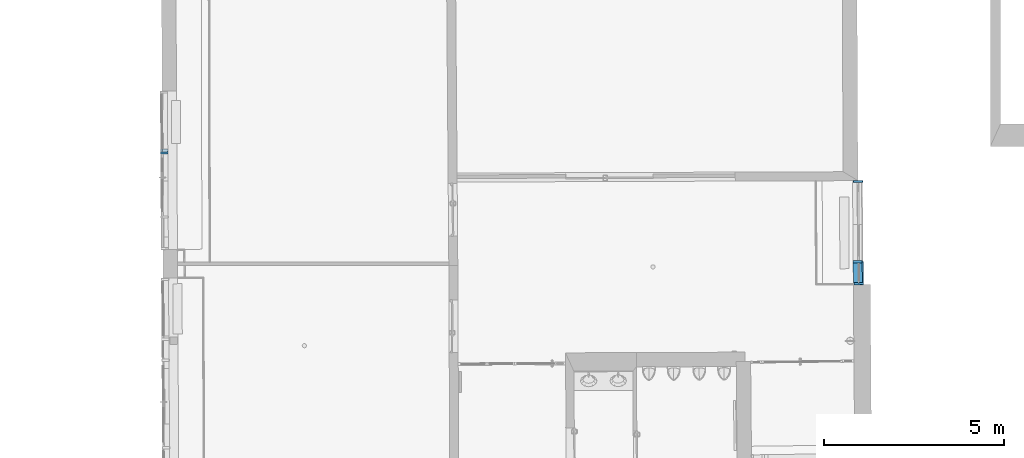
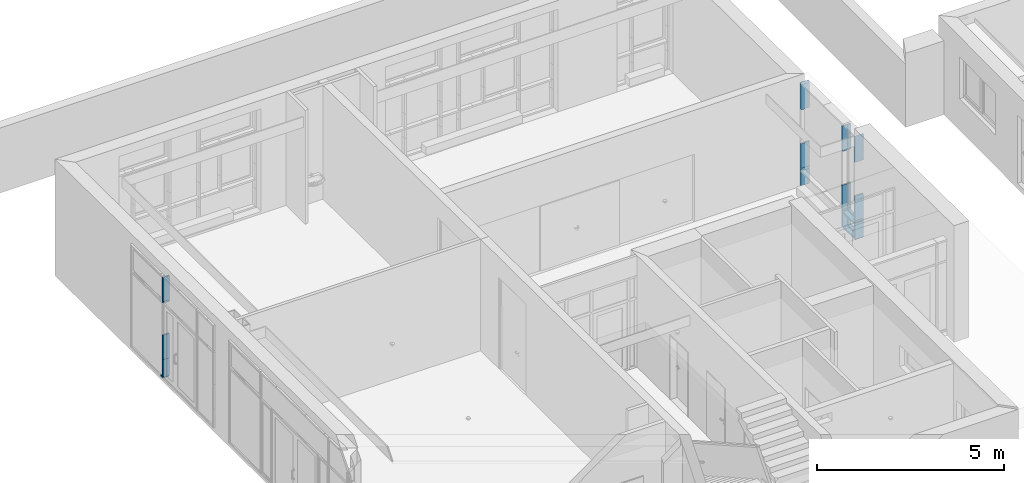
# One storey, part 159 of 196: 19 building element parts, 2 elements without a shape of their own.
"""IFC2X3 building model written with IfcOpenShell, lengths in metres."""

import ifcopenshell
import ifcopenshell.guid

model = None  # the IFC model being written
_history = None  # IfcOwnerHistory: only IFC2X3 demands one
_inside = {}  # id of a spatial element -> (the spatial element, [elements in it])
_under = {}  # id of a project, library or spatial element -> (it, [spatial elements below it])
_declared = {}  # id of a project -> (the project, [libraries it declares])
_typed = {}  # id of a type object -> (the type object, [elements of that type])
_made_of = {}  # id of a material, layer set ... -> (it, [elements and type objects made of it])


def new_model(schema):
    """Start an empty IFC model of exactly this schema.

    Asked for "IFC4X3", IfcOpenShell would pick the latest addendum, in which some entities
    have other attributes; the version numbers below select the first issue.
    IFC2X3 requires an IfcOwnerHistory on every rooted entity: one is made here for all.
    """
    global model, _history
    if schema == "IFC4X3":
        model = ifcopenshell.file(schema_version=(4, 3, 0, 0))
    else:
        model = ifcopenshell.file(schema=schema)
    _inside.clear()
    _under.clear()
    _declared.clear()
    _typed.clear()
    _made_of.clear()
    _history = None
    if model.schema == "IFC2X3":
        org = make("IfcOrganization", Name="unknown")
        user = make(
            "IfcPersonAndOrganization",
            ThePerson=make("IfcPerson", FamilyName="unknown"),
            TheOrganization=org,
        )
        app = make(
            "IfcApplication",
            ApplicationDeveloper=org,
            Version="unknown",
            ApplicationFullName="unknown",
            ApplicationIdentifier="unknown",
        )
        _history = make(
            "IfcOwnerHistory",
            OwningUser=user,
            OwningApplication=app,
            ChangeAction="ADDED",
            CreationDate=0,
        )
    return model


def make(cls, **values):
    """One entity of the class cls with the attributes given. An attribute that is None is left unset."""
    return model.create_entity(
        cls, **{name: value for name, value in values.items() if value is not None}
    )


def entity(cls, *values):
    """Any entity or typed value of the class cls, its attributes in the order of the schema. None: left unset."""
    e = model.create_entity(cls)
    for i, value in enumerate(values):
        if value is not None:
            e[i] = value
    return e


def rooted(cls, **values):
    """An entity with a GlobalId (a new one), such as an element, a storey or a relation."""
    return make(cls, GlobalId=ifcopenshell.guid.new(), OwnerHistory=_history, **values)


def si_unit(unit_type, name, prefix=None):
    """IfcSIUnit, for example si_unit("LENGTHUNIT", "METRE", prefix="MILLI")."""
    return make("IfcSIUnit", UnitType=unit_type, Prefix=prefix, Name=name)


def converted_unit(unit_type, name, factor, base, dimensions=None, offset=None):
    """IfcConversionBasedUnit, such as the inch: factor (a typed value) times the base unit."""
    return make(
        "IfcConversionBasedUnit"
        if offset is None
        else "IfcConversionBasedUnitWithOffset",
        ConversionOffset=offset,
        Dimensions=None
        if dimensions is None
        else entity("IfcDimensionalExponents", *dimensions),
        UnitType=unit_type,
        Name=name,
        ConversionFactor=make(
            "IfcMeasureWithUnit", ValueComponent=factor, UnitComponent=base
        ),
    )


def derived_unit(unit_type, elements):
    """IfcDerivedUnit: a product of units, each with its exponent."""
    return make(
        "IfcDerivedUnit",
        Elements=[
            make("IfcDerivedUnitElement", Unit=unit, Exponent=power)
            for unit, power in elements
        ],
        UnitType=unit_type,
    )


def money_unit(currency):
    """IfcMonetaryUnit."""
    return make("IfcMonetaryUnit", Currency=currency)


def assignment(units):
    """IfcUnitAssignment: the units of a project."""
    return None if units is None else make("IfcUnitAssignment", Units=units)


def point(xyz):
    """IfcCartesianPoint."""
    return None if xyz is None else make("IfcCartesianPoint", Coordinates=xyz)


def direction(xyz):
    """IfcDirection."""
    return None if xyz is None else make("IfcDirection", DirectionRatios=xyz)


def frame(location, z_axis=None, x_axis=None):
    """IfcAxis2Placement3D, a coordinate frame: its origin and axes. An axis left out is left unset."""
    return make(
        "IfcAxis2Placement3D",
        Location=point(location),
        Axis=direction(z_axis),
        RefDirection=direction(x_axis),
    )


def origin_with_axes():
    """The frame at (0, 0, 0) with the z axis (0, 0, 1) and the x axis (1, 0, 0) written out."""
    return frame((0.0, 0.0, 0.0), z_axis=(0.0, 0.0, 1.0), x_axis=(1.0, 0.0, 0.0))


def place(relative_to, where):
    """IfcLocalPlacement: puts the frame where relative to a parent placement (None: the world)."""
    return make(
        "IfcLocalPlacement", PlacementRelTo=relative_to, RelativePlacement=where
    )


def context(
    kind, dimensions, precision=None, world=None, true_north=None, identifier=None
):
    """IfcGeometricRepresentationContext, for example the 3D "Model" context."""
    return make(
        "IfcGeometricRepresentationContext",
        ContextIdentifier=identifier,
        ContextType=kind,
        CoordinateSpaceDimension=dimensions,
        Precision=precision,
        WorldCoordinateSystem=world,
        TrueNorth=true_north,
    )


def subcontext(parent, identifier, kind, view, scale=None):
    """IfcGeometricRepresentationSubContext, for example "Body" below "Model"."""
    return make(
        "IfcGeometricRepresentationSubContext",
        ContextIdentifier=identifier,
        ContextType=kind,
        ParentContext=parent,
        TargetScale=scale,
        TargetView=view,
    )


def project(units=None, contexts=None):
    """IfcProject with its units and contexts."""
    return rooted(
        "IfcProject",
        Name="project",
        RepresentationContexts=contexts,
        UnitsInContext=assignment(units),
    )


def spatial(cls, under=None, at=None, **own):
    """A site, building, storey or space (cls), placed at a placement, below another one or the project."""
    s = rooted(cls, ObjectPlacement=at, **own)
    if under is not None:
        _under.setdefault(under.id(), (under, []))[1].append(s)
    return s


def faces_of(points, faces, orient=None, outer=None):
    """IfcFace entities. A face is a list of loops; a loop is a list of indices into points, from 0.

    orient and outer hold one flag for each loop. By default every Orientation is true, the
    first loop of a face is its IfcFaceOuterBound and the others are IfcFaceBound.
    """
    made = []
    for i, loops in enumerate(faces):
        bounds = []
        for j, loop in enumerate(loops):
            is_outer = j == 0 if outer is None else outer[i][j]
            bounds.append(
                make(
                    "IfcFaceOuterBound" if is_outer else "IfcFaceBound",
                    Bound=make("IfcPolyLoop", Polygon=[points[k] for k in loop]),
                    Orientation=True if orient is None else orient[i][j],
                )
            )
        made.append(make("IfcFace", Bounds=bounds))
    return made


def faceted_brep(points, faces, orient=None, outer=None, voids=None):
    """IfcFacetedBrep: a solid bounded by flat faces; with voids (closed shells), ...WithVoids."""
    shared = [point(p) for p in points]
    hull = make("IfcClosedShell", CfsFaces=faces_of(shared, faces, orient, outer))
    if voids is None:
        return make("IfcFacetedBrep", Outer=hull)
    return make(
        "IfcFacetedBrepWithVoids",
        Outer=hull,
        Voids=[
            make(cls, CfsFaces=faces_of(shared, fs, o, b)) for cls, fs, o, b in voids
        ],
    )


def shape(context_of_items, identifier, shape_type, items):
    """IfcShapeRepresentation: the items that make up one representation, for example the "Body"."""
    return make(
        "IfcShapeRepresentation",
        ContextOfItems=context_of_items,
        RepresentationIdentifier=identifier,
        RepresentationType=shape_type,
        Items=items,
    )


def material(Name=None, Category=None):
    """IfcMaterial."""
    return make("IfcMaterial", Name=Name, Category=Category)


def made_of(thing, what):
    """Note that an element or type object is made of a material, layer set ...; save() writes the relation."""
    if what is not None:
        _made_of.setdefault(what.id(), (what, []))[1].append(thing)
    return thing


def type_object(cls, material=None, **own):
    """A type object (cls), such as IfcWallType, which elements share."""
    return made_of(rooted(cls, **own), material)


def element(
    cls,
    number,
    at=None,
    inside=None,
    cuts=None,
    type_object=None,
    material=None,
    context=None,
    identifier="Body",
    shape_type=None,
    held_by="IfcProductDefinitionShape",
    body=None,
    shapes=None,
    **own,
):
    """One element of the class cls, such as IfcWall. Its Tag is "e" and its number.

    at: its placement. inside: the storey or other place that contains it. cuts: it is an
    opening in that element (IfcRelVoidsElement). A single representation is given by context,
    identifier, shape_type and body (its items); several are given by shapes. held_by: the class
    of the entity that holds the representations. save() writes the other relations.
    """
    e = rooted(cls, Tag="e%d" % number, ObjectPlacement=at, **own)
    if body is not None:
        shapes = [shape(context, identifier, shape_type, body)]
    if shapes is not None:
        e.Representation = make(held_by, Representations=shapes)
    if inside is not None:
        _inside.setdefault(inside.id(), (inside, []))[1].append(e)
    if cuts is not None:
        rooted(
            "IfcRelVoidsElement", RelatingBuildingElement=cuts, RelatedOpeningElement=e
        )
    if type_object is not None:
        _typed.setdefault(type_object.id(), (type_object, []))[1].append(e)
    return made_of(e, material)


def aggregate(whole, parts):
    """IfcRelAggregates: a whole, such as a stair, and the parts it consists of."""
    return rooted("IfcRelAggregates", RelatingObject=whole, RelatedObjects=parts)


def save(model, path):
    """Write the relations noted so far, then the file.

    IfcRelAggregates (storeys below a building ...), IfcRelContainedInSpatialStructure (elements
    in a storey), IfcRelDefinesByType, IfcRelAssociatesMaterial and IfcRelDeclares: one each for
    every whole, place, type object, material and project.
    """
    for whole, parts in _under.values():
        aggregate(whole, parts)
    for where, things in _inside.values():
        rooted(
            "IfcRelContainedInSpatialStructure",
            RelatedElements=things,
            RelatingStructure=where,
        )
    for kind, things in _typed.values():
        rooted("IfcRelDefinesByType", RelatedObjects=things, RelatingType=kind)
    for what, things in _made_of.values():
        rooted("IfcRelAssociatesMaterial", RelatedObjects=things, RelatingMaterial=what)
    for by, libraries in _declared.values():
        rooted("IfcRelDeclares", RelatingContext=by, RelatedDefinitions=libraries)
    model.write(path)


model = new_model("IFC2X3")

# Units and contexts
model_context = context("Model", 3, precision=1e-05, world=origin_with_axes(), true_north=direction((0.0, 1.0)))
body_context = subcontext(model_context, "Body", "Model", "MODEL_VIEW")
ifc_project = project(units=[si_unit("LENGTHUNIT", "METRE"), si_unit("AREAUNIT", "SQUARE_METRE"), si_unit("VOLUMEUNIT", "CUBIC_METRE"), converted_unit("PLANEANGLEUNIT", "DEGREE", entity("IfcPlaneAngleMeasure", 0.0174532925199), si_unit("PLANEANGLEUNIT", "RADIAN"), dimensions=[0, 0, 0, 0, 0, 0, 0]), money_unit("EUR"), converted_unit("TIMEUNIT", "Year", entity("IfcTimeMeasure", 31556926.0), si_unit("TIMEUNIT", "SECOND"), dimensions=[0, 0, 1, 0, 0, 0, 0]), si_unit("MASSUNIT", "GRAM", prefix="KILO"), si_unit("THERMODYNAMICTEMPERATUREUNIT", "DEGREE_CELSIUS"), si_unit("LUMINOUSINTENSITYUNIT", "LUMEN"), si_unit("ENERGYUNIT", "JOULE", prefix="MEGA"), derived_unit("THERMALCONDUCTANCEUNIT", [(si_unit("POWERUNIT", "WATT"), 1), (si_unit("LENGTHUNIT", "METRE"), -1), (si_unit("THERMODYNAMICTEMPERATUREUNIT", "KELVIN"), -1)]), derived_unit("SPECIFICHEATCAPACITYUNIT", [(si_unit("ENERGYUNIT", "JOULE"), 1), (si_unit("MASSUNIT", "GRAM", prefix="KILO"), -1), (si_unit("THERMODYNAMICTEMPERATUREUNIT", "KELVIN"), -1)]), derived_unit("MASSDENSITYUNIT", [(si_unit("MASSUNIT", "GRAM", prefix="KILO"), 1), (si_unit("VOLUMEUNIT", "CUBIC_METRE"), -1)])], contexts=[model_context])

# Site, building, storey
site_placement = place(None, origin_with_axes())
site = spatial("IfcSite", under=ifc_project, at=site_placement, Name="Gelände", CompositionType="ELEMENT")
building_placement = place(site_placement, origin_with_axes())
building = spatial("IfcBuilding", under=site, at=building_placement, Name="Gebäude", CompositionType="ELEMENT")
storey_placement = place(building_placement, frame((0.0, 0.0, -3.0), z_axis=(0.0, 0.0, 1.0), x_axis=(1.0, 0.0, 0.0)))
storey = spatial("IfcBuildingStorey", under=building, at=storey_placement, Name="KELLERGESCHOSS", CompositionType="ELEMENT", Elevation=-3.0)

# Proxy, building element parts
building_element_proxy_type = type_object("IfcBuildingElementProxyType", Name="Fassadentyp", PredefinedType="NOTDEFINED")
proxy_1_placement = place(storey_placement, frame((-34.913387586, 47.2552574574, 0.421025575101), z_axis=(0.0, 0.0, 1.0), x_axis=(1.0, 0.0, 0.0)))
proxy_1 = element("IfcBuildingElementProxy", 1, at=proxy_1_placement, inside=storey, type_object=building_element_proxy_type, Name="Fassade-002")
ifc_material = material(Name="53_Metall, Aluminium")
building_element_part_1_placement = place(proxy_1_placement, origin_with_axes())
building_element_part_1 = element("IfcBuildingElementPart", 2, at=building_element_part_1_placement, material=ifc_material, Name="53_Metall, Aluminium", context=body_context, shape_type="Brep", body=[
    faceted_brep([(0.00490654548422, 0.868505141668, 0.0349999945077), (-0.0150931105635, 0.868387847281, 0.0349999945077), (-0.0150931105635, 0.868387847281, 0.0499999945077), (-0.0550924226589, 0.868153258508, 0.0499999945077), (-0.0550924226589, 0.868153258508, -5.49228174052e-09), (0.144904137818, 0.869326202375, -5.49228174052e-09), (0.144904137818, 0.869326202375, 0.0499999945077), (0.00490654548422, 0.868505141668, 0.0499999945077), (0.00424004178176, 0.982149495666, 0.0349999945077), (-0.015759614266, 0.982032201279, 0.0349999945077), (-0.015759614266, 0.982032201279, 0.0499999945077), (-0.0557589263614, 0.981797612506, 0.0499999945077), (-0.0557589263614, 0.981797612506, -5.49228174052e-09), (0.144237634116, 0.982970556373, -5.49228174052e-09), (0.144237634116, 0.982970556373, 0.0499999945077), (0.00424004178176, 0.982149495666, 0.0499999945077)], [[[0, 1, 2, 3, 4, 5, 6, 7]], [[1, 0, 8, 9]], [[10, 2, 1, 9]], [[2, 10, 11, 3]], [[12, 4, 3, 11]], [[13, 5, 4, 12]], [[14, 6, 5, 13]], [[15, 7, 6, 14]], [[0, 7, 15, 8]], [[8, 15, 14, 13, 12, 11, 10, 9]]]),
])
building_element_part_2_placement = place(proxy_1_placement, origin_with_axes())
building_element_part_2 = element("IfcBuildingElementPart", 3, at=building_element_part_2_placement, material=ifc_material, Name="53_Metall, Aluminium", context=body_context, shape_type="Brep", body=[
    faceted_brep([(0.0049651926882, 0.858505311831, 1.42000003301), (0.00505316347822, 0.843505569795, 1.42000003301), (0.145050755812, 0.844326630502, 1.42000003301), (0.144757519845, 0.894325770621, 1.42000003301), (0.00475992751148, 0.893504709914, 1.42000003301), (0.0048478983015, 0.878504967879, 1.42000003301), (-0.0151517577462, 0.878387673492, 1.42000003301), (-0.0152397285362, 0.893387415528, 1.42000003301), (-0.0552390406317, 0.893152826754, 1.42000003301), (-0.0549458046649, 0.843153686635, 1.42000003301), (-0.0149464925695, 0.843388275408, 1.42000003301), (-0.0150344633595, 0.858388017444, 1.42000003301), (0.0049651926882, 0.858505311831, 0.620000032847), (0.00505316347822, 0.843505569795, 0.620000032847), (0.145050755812, 0.844326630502, 0.620000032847), (0.144757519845, 0.894325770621, 0.620000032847), (0.00475992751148, 0.893504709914, 0.620000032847), (0.0048478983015, 0.878504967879, 0.620000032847), (-0.0151517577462, 0.878387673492, 0.620000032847), (-0.0152397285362, 0.893387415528, 0.620000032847), (-0.0552390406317, 0.893152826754, 0.620000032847), (-0.0549458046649, 0.843153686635, 0.620000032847), (-0.0149464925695, 0.843388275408, 0.620000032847), (-0.0150344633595, 0.858388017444, 0.620000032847)], [[[0, 1, 2, 3, 4, 5, 6, 7, 8, 9, 10, 11]], [[1, 0, 12, 13]], [[1, 13, 14, 2]], [[3, 2, 14, 15]], [[4, 3, 15, 16]], [[4, 16, 17, 5]], [[5, 17, 18, 6]], [[7, 6, 18, 19]], [[19, 20, 8, 7]], [[9, 8, 20, 21]], [[22, 10, 9, 21]], [[11, 10, 22, 23]], [[0, 11, 23, 12]], [[23, 22, 21, 20, 19, 18, 17, 16, 15, 14, 13, 12]]]),
])
building_element_part_3_placement = place(proxy_1_placement, origin_with_axes())
building_element_part_3 = element("IfcBuildingElementPart", 4, at=building_element_part_3_placement, material=ifc_material, Name="53_Metall, Aluminium", context=body_context, shape_type="Brep", body=[
    faceted_brep([(0.00496519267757, 0.858505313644, 0.620000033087), (0.00505316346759, 0.843505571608, 0.620000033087), (0.145050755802, 0.844326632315, 0.620000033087), (0.144757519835, 0.894325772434, 0.620000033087), (0.00475992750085, 0.893504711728, 0.620000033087), (0.00484789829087, 0.878504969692, 0.620000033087), (-0.0151517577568, 0.878387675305, 0.620000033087), (-0.0152397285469, 0.893387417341, 0.620000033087), (-0.0552390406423, 0.893152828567, 0.620000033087), (-0.0549458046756, 0.843153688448, 0.620000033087), (-0.0149464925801, 0.843388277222, 0.620000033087), (-0.0150344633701, 0.858388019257, 0.620000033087), (0.00496519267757, 0.858505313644, 0.049999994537), (0.00505316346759, 0.843505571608, 0.049999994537), (0.145050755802, 0.844326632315, 0.0499999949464), (0.144757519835, 0.894325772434, 0.0499999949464), (0.00475992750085, 0.893504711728, 0.049999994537), (0.00484789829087, 0.878504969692, 0.049999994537), (-0.0151517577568, 0.878387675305, 0.0499999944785), (-0.0152397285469, 0.893387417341, 0.0499999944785), (-0.0552390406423, 0.893152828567, 0.0499999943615), (-0.0549458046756, 0.843153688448, 0.0499999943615), (-0.0149464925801, 0.843388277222, 0.0499999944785), (-0.0150344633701, 0.858388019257, 0.0499999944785)], [[[0, 1, 2, 3, 4, 5, 6, 7, 8, 9, 10, 11]], [[1, 0, 12, 13]], [[1, 13, 14, 2]], [[2, 14, 15, 3]], [[4, 3, 15, 16]], [[4, 16, 17, 5]], [[5, 17, 18, 6]], [[7, 6, 18, 19]], [[19, 20, 8, 7]], [[8, 20, 21, 9]], [[22, 10, 9, 21]], [[11, 10, 22, 23]], [[0, 11, 23, 12]], [[23, 22, 21, 20, 19, 18, 17, 16, 15, 14, 13, 12]]]),
])
building_element_part_4_placement = place(proxy_1_placement, origin_with_axes())
building_element_part_4 = element("IfcBuildingElementPart", 5, at=building_element_part_4_placement, material=ifc_material, Name="53_Metall, Aluminium", context=body_context, shape_type="Brep", body=[
    faceted_brep([(0.00496519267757, 0.858505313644, 3.29999994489), (0.00505316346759, 0.843505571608, 3.29999994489), (0.145050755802, 0.844326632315, 3.29999994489), (0.144757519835, 0.894325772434, 3.29999994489), (0.00475992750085, 0.893504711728, 3.29999994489), (0.00484789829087, 0.878504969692, 3.29999994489), (-0.0151517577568, 0.878387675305, 3.29999994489), (-0.0152397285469, 0.893387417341, 3.29999994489), (-0.0552390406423, 0.893152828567, 3.29999994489), (-0.0549458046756, 0.843153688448, 3.29999994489), (-0.0149464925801, 0.843388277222, 3.29999994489), (-0.0150344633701, 0.858388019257, 3.29999994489), (0.00496519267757, 0.858505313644, 2.52000003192), (0.00505316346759, 0.843505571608, 2.52000003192), (0.145050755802, 0.844326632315, 2.52000003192), (0.144757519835, 0.894325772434, 2.52000003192), (0.00475992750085, 0.893504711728, 2.52000003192), (0.00484789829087, 0.878504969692, 2.52000003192), (-0.0151517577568, 0.878387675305, 2.52000003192), (-0.0152397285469, 0.893387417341, 2.52000003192), (-0.0552390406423, 0.893152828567, 2.52000003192), (-0.0549458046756, 0.843153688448, 2.52000003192), (-0.0149464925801, 0.843388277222, 2.52000003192), (-0.0150344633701, 0.858388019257, 2.52000003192)], [[[0, 1, 2, 3, 4, 5, 6, 7, 8, 9, 10, 11]], [[1, 0, 12, 13]], [[1, 13, 14, 2]], [[3, 2, 14, 15]], [[4, 3, 15, 16]], [[4, 16, 17, 5]], [[5, 17, 18, 6]], [[7, 6, 18, 19]], [[19, 20, 8, 7]], [[9, 8, 20, 21]], [[22, 10, 9, 21]], [[11, 10, 22, 23]], [[0, 11, 23, 12]], [[23, 22, 21, 20, 19, 18, 17, 16, 15, 14, 13, 12]]]),
])
building_element_part_5_placement = place(proxy_1_placement, origin_with_axes())
building_element_part_5 = element("IfcBuildingElementPart", 6, at=building_element_part_5_placement, material=ifc_material, Name="53_Metall, Aluminium", context=body_context, shape_type="Brep", body=[
    faceted_brep([(0.00496519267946, 0.858505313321, 2.52000003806), (0.00505316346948, 0.843505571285, 2.52000003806), (0.145050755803, 0.844326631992, 2.52000003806), (0.144757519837, 0.894325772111, 2.52000003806), (0.00475992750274, 0.893504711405, 2.52000003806), (0.00484789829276, 0.878504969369, 2.52000003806), (-0.015151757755, 0.878387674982, 2.52000003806), (-0.015239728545, 0.893387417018, 2.52000003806), (-0.0552390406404, 0.893152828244, 2.52000003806), (-0.0549458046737, 0.843153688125, 2.52000003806), (-0.0149464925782, 0.843388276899, 2.52000003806), (-0.0150344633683, 0.858388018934, 2.52000003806), (0.00496519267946, 0.858505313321, 2.45764337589), (0.00505316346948, 0.843505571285, 2.45764337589), (0.145050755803, 0.844326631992, 2.45764337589), (0.144757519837, 0.894325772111, 2.45764337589), (0.00475992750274, 0.893504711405, 2.45764337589), (0.00484789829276, 0.878504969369, 2.45764337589), (-0.015151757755, 0.878387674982, 2.45764337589), (-0.015239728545, 0.893387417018, 2.45764337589), (-0.0552390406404, 0.893152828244, 2.45764337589), (-0.0549458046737, 0.843153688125, 2.45764337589), (-0.0149464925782, 0.843388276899, 2.45764337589), (-0.0150344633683, 0.858388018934, 2.45764337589)], [[[0, 1, 2, 3, 4, 5, 6, 7, 8, 9, 10, 11]], [[1, 0, 12, 13]], [[1, 13, 14, 2]], [[3, 2, 14, 15]], [[4, 3, 15, 16]], [[4, 16, 17, 5]], [[5, 17, 18, 6]], [[7, 6, 18, 19]], [[19, 20, 8, 7]], [[9, 8, 20, 21]], [[22, 10, 9, 21]], [[11, 10, 22, 23]], [[0, 11, 23, 12]], [[23, 22, 21, 20, 19, 18, 17, 16, 15, 14, 13, 12]]]),
])
aggregate(proxy_1, [building_element_part_1, building_element_part_2, building_element_part_3, building_element_part_4, building_element_part_5])

proxy_2_placement = place(storey_placement, frame((-15.5832344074, 44.7839609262, 0.421025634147), z_axis=(0.0, 0.0, 1.0), x_axis=(1.0, 0.0, 0.0)))
proxy_2 = element("IfcBuildingElementProxy", 7, at=proxy_2_placement, inside=storey, type_object=building_element_proxy_type, Name="Fassade-002")
building_element_part_6_placement = place(proxy_2_placement, origin_with_axes())
building_element_part_6 = element("IfcBuildingElementPart", 8, at=building_element_part_6_placement, material=ifc_material, Name="53_Metall, Aluminium", context=body_context, shape_type="Brep", body=[
    faceted_brep([(-0.0296225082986, 2.53505362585, 0.5335010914), (-0.00962310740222, 2.53520842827, 0.5335010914), (-0.00950700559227, 2.52020887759, 0.5335010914), (0.110489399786, 2.52113769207, 0.5335010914), (0.110102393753, 2.57113619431, 0.5335010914), (-0.1498898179, 2.56912376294, 0.5335010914), (-0.149502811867, 2.5191252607, 0.5335010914), (-0.0295064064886, 2.52005407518, 0.5335010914), (-0.0296225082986, 2.53505362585, 0.0349999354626), (-0.00962310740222, 2.53520842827, 0.0349999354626), (-0.00950700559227, 2.52020887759, 0.0499999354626), (0.110489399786, 2.52113769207, 0.0499999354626), (0.110102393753, 2.57113619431, -6.45373541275e-08), (-0.1498898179, 2.56912376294, -6.45373541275e-08), (-0.149502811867, 2.5191252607, 0.0499999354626), (-0.0295064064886, 2.52005407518, 0.0499999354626)], [[[0, 1, 2, 3, 4, 5, 6, 7]], [[1, 0, 8, 9]], [[10, 2, 1, 9]], [[2, 10, 11, 3]], [[4, 3, 11, 12]], [[5, 4, 12, 13]], [[6, 5, 13, 14]], [[15, 7, 6, 14]], [[0, 7, 15, 8]], [[8, 15, 14, 13, 12, 11, 10, 9]]]),
])
building_element_part_7_placement = place(proxy_2_placement, origin_with_axes())
building_element_part_7 = element("IfcBuildingElementPart", 9, at=building_element_part_7_placement, material=ifc_material, Name="53_Metall, Aluminium", context=body_context, shape_type="Brep", body=[
    faceted_brep([(-0.00778371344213, -0.286367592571, 1.41999997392), (-0.00789981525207, -0.271368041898, 1.41999997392), (-0.12789622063, -0.272296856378, 1.41999997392), (-0.127509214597, -0.322295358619, 1.41999997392), (0.132482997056, -0.320282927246, 1.41999997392), (0.132095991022, -0.270284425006, 1.41999997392), (0.0120995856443, -0.271213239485, 1.41999997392), (0.0122156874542, -0.286212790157, 1.41999997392), (-0.00778371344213, -0.286367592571, 0.619999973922), (-0.00789981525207, -0.271368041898, 0.619999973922), (-0.12789622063, -0.272296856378, 0.619999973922), (-0.127509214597, -0.322295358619, 0.619999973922), (0.132482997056, -0.320282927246, 0.619999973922), (0.132095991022, -0.270284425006, 0.619999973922), (0.0120995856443, -0.271213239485, 0.619999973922), (0.0122156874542, -0.286212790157, 0.619999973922)], [[[0, 1, 2, 3, 4, 5, 6, 7]], [[0, 8, 9, 1]], [[9, 10, 2, 1]], [[10, 11, 3, 2]], [[11, 12, 4, 3]], [[12, 13, 5, 4]], [[6, 5, 13, 14]], [[14, 15, 7, 6]], [[7, 15, 8, 0]], [[8, 15, 14, 13, 12, 11, 10, 9]]]),
])
building_element_part_8_placement = place(proxy_2_placement, origin_with_axes())
building_element_part_8 = element("IfcBuildingElementPart", 10, at=building_element_part_8_placement, material=ifc_material, Name="53_Metall, Aluminium", context=body_context, shape_type="Brep", body=[
    faceted_brep([(-0.0296225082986, 2.53505362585, 1.41999997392), (-0.00962310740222, 2.53520842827, 1.41999997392), (-0.00950700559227, 2.52020887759, 1.41999997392), (0.110489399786, 2.52113769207, 1.41999997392), (0.110102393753, 2.57113619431, 1.41999997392), (-0.1498898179, 2.56912376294, 1.41999997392), (-0.149502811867, 2.5191252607, 1.41999997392), (-0.0295064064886, 2.52005407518, 1.41999997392), (-0.0296225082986, 2.53505362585, 0.619999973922), (-0.00962310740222, 2.53520842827, 0.619999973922), (-0.00950700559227, 2.52020887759, 0.619999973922), (0.110489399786, 2.52113769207, 0.619999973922), (0.110102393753, 2.57113619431, 0.619999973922), (-0.1498898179, 2.56912376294, 0.619999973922), (-0.149502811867, 2.5191252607, 0.619999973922), (-0.0295064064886, 2.52005407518, 0.619999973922)], [[[0, 1, 2, 3, 4, 5, 6, 7]], [[1, 0, 8, 9]], [[10, 2, 1, 9]], [[2, 10, 11, 3]], [[12, 4, 3, 11]], [[13, 5, 4, 12]], [[14, 6, 5, 13]], [[15, 7, 6, 14]], [[0, 7, 15, 8]], [[8, 15, 14, 13, 12, 11, 10, 9]]]),
])
building_element_part_9_placement = place(proxy_2_placement, origin_with_axes())
building_element_part_9 = element("IfcBuildingElementPart", 11, at=building_element_part_9_placement, material=ifc_material, Name="53_Metall, Aluminium", context=body_context, shape_type="Brep", body=[
    faceted_brep([(-0.0296225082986, 2.53505362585, 0.619999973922), (-0.00962310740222, 2.53520842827, 0.619999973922), (-0.00950700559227, 2.52020887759, 0.619999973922), (0.110489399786, 2.52113769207, 0.619999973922), (0.110102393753, 2.57113619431, 0.619999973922), (-0.1498898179, 2.56912376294, 0.619999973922), (-0.149502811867, 2.5191252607, 0.619999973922), (-0.0295064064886, 2.52005407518, 0.619999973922), (-0.0296225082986, 2.53505362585, 0.5335010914), (-0.00962310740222, 2.53520842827, 0.5335010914), (-0.00950700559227, 2.52020887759, 0.5335010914), (0.110489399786, 2.52113769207, 0.5335010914), (0.110102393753, 2.57113619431, 0.5335010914), (-0.1498898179, 2.56912376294, 0.5335010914), (-0.149502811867, 2.5191252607, 0.5335010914), (-0.0295064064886, 2.52005407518, 0.5335010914)], [[[0, 1, 2, 3, 4, 5, 6, 7]], [[1, 0, 8, 9]], [[10, 2, 1, 9]], [[2, 10, 11, 3]], [[12, 4, 3, 11]], [[13, 5, 4, 12]], [[14, 6, 5, 13]], [[15, 7, 6, 14]], [[0, 7, 15, 8]], [[8, 15, 14, 13, 12, 11, 10, 9]]]),
])
building_element_part_10_placement = place(proxy_2_placement, origin_with_axes())
building_element_part_10 = element("IfcBuildingElementPart", 12, at=building_element_part_10_placement, material=ifc_material, Name="53_Metall, Aluminium", context=body_context, shape_type="Brep", body=[
    faceted_brep([(-0.0122930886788, 0.296212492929, 0.523501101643), (-0.0122930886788, 0.296212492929, 0.508501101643), (-0.152288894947, 0.295128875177, 0.508501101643), (-0.152288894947, 0.295128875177, 0.558501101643), (-0.0122930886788, 0.296212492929, 0.558501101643), (-0.0122930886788, 0.296212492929, 0.543501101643), (0.00770631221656, 0.296367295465, 0.543501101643), (0.00770631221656, 0.296367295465, 0.558501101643), (0.0977036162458, 0.297063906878, 0.558501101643), (0.0977036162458, 0.297063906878, 0.508501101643), (0.00770631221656, 0.296367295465, 0.508501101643), (0.00770631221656, 0.296367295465, 0.523501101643), (-0.00789981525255, -0.271368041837, 0.523501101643), (-0.00789981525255, -0.271368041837, 0.508501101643), (-0.147895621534, -0.27245165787, 0.508501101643), (-0.147895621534, -0.27245165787, 0.558501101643), (-0.00789981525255, -0.271368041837, 0.558501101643), (-0.00789981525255, -0.271368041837, 0.543501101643), (0.0120995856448, -0.271213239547, 0.543501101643), (0.0120995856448, -0.271213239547, 0.558501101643), (0.102096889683, -0.27051662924, 0.558501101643), (0.102096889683, -0.27051662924, 0.508501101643), (0.0120995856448, -0.271213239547, 0.508501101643), (0.0120995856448, -0.271213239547, 0.523501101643)], [[[0, 1, 2, 3, 4, 5, 6, 7, 8, 9, 10, 11]], [[1, 0, 12, 13]], [[1, 13, 14, 2]], [[2, 14, 15, 3]], [[4, 3, 15, 16]], [[4, 16, 17, 5]], [[5, 17, 18, 6]], [[7, 6, 18, 19]], [[19, 20, 8, 7]], [[8, 20, 21, 9]], [[22, 10, 9, 21]], [[11, 10, 22, 23]], [[0, 11, 23, 12]], [[23, 22, 21, 20, 19, 18, 17, 16, 15, 14, 13, 12]]]),
])
building_element_part_11_placement = place(proxy_2_placement, origin_with_axes())
building_element_part_11 = element("IfcBuildingElementPart", 13, at=building_element_part_11_placement, material=ifc_material, Name="53_Metall, Aluminium", context=body_context, shape_type="Brep", body=[
    faceted_brep([(-0.0125639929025, 0.331211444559, 0.533501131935), (-0.0126800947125, 0.346210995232, 0.533501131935), (-0.152675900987, 0.345127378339, 0.533501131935), (-0.152288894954, 0.295128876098, 0.533501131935), (-0.0122930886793, 0.296212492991, 0.533501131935), (-0.0124091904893, 0.311212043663, 0.533501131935), (0.00759021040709, 0.311366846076, 0.533501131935), (0.00770631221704, 0.296367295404, 0.533501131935), (0.0977036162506, 0.297063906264, 0.533501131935), (0.0973166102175, 0.347062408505, 0.533501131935), (0.00731930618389, 0.346365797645, 0.533501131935), (0.00743540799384, 0.331366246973, 0.533501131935), (-0.0125639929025, 0.331211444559, 0.0499999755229), (-0.0126800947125, 0.346210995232, 0.0499999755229), (-0.152675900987, 0.345127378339, 0.0499999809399), (-0.152288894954, 0.295128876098, 0.0499999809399), (-0.0122930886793, 0.296212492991, 0.0499999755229), (-0.0124091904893, 0.311212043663, 0.0499999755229), (0.00759021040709, 0.311366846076, 0.049999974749), (0.00770631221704, 0.296367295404, 0.049999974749), (0.0977036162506, 0.297063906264, 0.0499999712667), (0.0973166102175, 0.347062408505, 0.0499999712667), (0.00731930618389, 0.346365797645, 0.049999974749), (0.00743540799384, 0.331366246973, 0.049999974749)], [[[0, 1, 2, 3, 4, 5, 6, 7, 8, 9, 10, 11]], [[1, 0, 12, 13]], [[1, 13, 14, 2]], [[2, 14, 15, 3]], [[4, 3, 15, 16]], [[4, 16, 17, 5]], [[5, 17, 18, 6]], [[7, 6, 18, 19]], [[19, 20, 8, 7]], [[8, 20, 21, 9]], [[22, 10, 9, 21]], [[11, 10, 22, 23]], [[0, 11, 23, 12]], [[23, 22, 21, 20, 19, 18, 17, 16, 15, 14, 13, 12]]]),
])
building_element_part_12_placement = place(proxy_2_placement, origin_with_axes())
building_element_part_12 = element("IfcBuildingElementPart", 14, at=building_element_part_12_placement, material=ifc_material, Name="53_Metall, Aluminium", context=body_context, shape_type="Brep", body=[
    faceted_brep([(-0.0124865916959, 0.321211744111, 0.035), (0.00751280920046, 0.321366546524, 0.035), (0.00751280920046, 0.321366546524, 0.05), (0.127509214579, 0.322295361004, 0.05), (0.127509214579, 0.322295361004, 0.0), (-0.132482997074, 0.320282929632, 0.0), (-0.132482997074, 0.320282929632, 0.05), (-0.0124865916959, 0.321211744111, 0.05), (-0.00778371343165, -0.286367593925, 0.035), (0.0122156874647, -0.286212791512, 0.035), (0.0120995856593, -0.27121324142, 0.05), (0.132095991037, -0.27028442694, 0.05), (0.132482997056, -0.320282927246, 0.0), (-0.127509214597, -0.322295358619, 0.0), (-0.127896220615, -0.272296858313, 0.05), (-0.0078998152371, -0.271368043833, 0.05)], [[[0, 1, 2, 3, 4, 5, 6, 7]], [[1, 0, 8, 9]], [[10, 2, 1, 9]], [[2, 10, 11, 3]], [[4, 3, 11, 12]], [[5, 4, 12, 13]], [[6, 5, 13, 14]], [[15, 7, 6, 14]], [[0, 7, 15, 8]], [[8, 15, 14, 13, 12, 11, 10, 9]]]),
])
building_element_part_13_placement = place(proxy_2_placement, origin_with_axes())
building_element_part_13 = element("IfcBuildingElementPart", 15, at=building_element_part_13_placement, material=ifc_material, Name="53_Metall, Aluminium", context=body_context, shape_type="Brep", body=[
    faceted_brep([(-0.0125639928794, 0.331211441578, 1.41999997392), (-0.0126800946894, 0.34621099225, 1.41999997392), (-0.152675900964, 0.345127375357, 1.41999997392), (-0.152288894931, 0.295128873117, 1.41999997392), (-0.0122930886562, 0.296212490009, 1.41999997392), (-0.0124091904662, 0.311212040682, 1.41999997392), (0.00759021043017, 0.311366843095, 1.41999997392), (0.00770631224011, 0.296367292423, 1.41999997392), (0.0977036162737, 0.297063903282, 1.41999997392), (0.0973166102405, 0.347062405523, 1.41999997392), (0.00731930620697, 0.346365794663, 1.41999997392), (0.00743540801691, 0.331366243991, 1.41999997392), (-0.0125639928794, 0.331211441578, 0.61999997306), (-0.0126800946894, 0.34621099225, 0.61999997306), (-0.152675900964, 0.345127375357, 0.61999997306), (-0.152288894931, 0.295128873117, 0.61999997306), (-0.0122930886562, 0.296212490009, 0.61999997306), (-0.0124091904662, 0.311212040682, 0.61999997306), (0.00759021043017, 0.311366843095, 0.61999997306), (0.00770631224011, 0.296367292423, 0.61999997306), (0.0977036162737, 0.297063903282, 0.61999997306), (0.0973166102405, 0.347062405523, 0.61999997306), (0.00731930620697, 0.346365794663, 0.61999997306), (0.00743540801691, 0.331366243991, 0.61999997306)], [[[0, 1, 2, 3, 4, 5, 6, 7, 8, 9, 10, 11]], [[1, 0, 12, 13]], [[1, 13, 14, 2]], [[3, 2, 14, 15]], [[4, 3, 15, 16]], [[4, 16, 17, 5]], [[5, 17, 18, 6]], [[7, 6, 18, 19]], [[19, 20, 8, 7]], [[9, 8, 20, 21]], [[22, 10, 9, 21]], [[11, 10, 22, 23]], [[0, 11, 23, 12]], [[23, 22, 21, 20, 19, 18, 17, 16, 15, 14, 13, 12]]]),
])
building_element_part_14_placement = place(proxy_2_placement, origin_with_axes())
building_element_part_14 = element("IfcBuildingElementPart", 16, at=building_element_part_14_placement, material=ifc_material, Name="53_Metall, Aluminium", context=body_context, shape_type="Brep", body=[
    faceted_brep([(-0.00778371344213, -0.286367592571, 0.533501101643), (-0.00789981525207, -0.271368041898, 0.533501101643), (-0.12789622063, -0.272296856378, 0.533501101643), (-0.127509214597, -0.322295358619, 0.533501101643), (0.132482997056, -0.320282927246, 0.533501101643), (0.132095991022, -0.270284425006, 0.533501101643), (0.0120995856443, -0.271213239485, 0.533501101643), (0.0122156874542, -0.286212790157, 0.533501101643), (-0.00778371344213, -0.286367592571, 0.0349999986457), (-0.00789981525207, -0.271368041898, 0.0499999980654), (-0.12789622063, -0.272296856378, 0.0499999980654), (-0.127509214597, -0.322295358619, 0.0), (0.132482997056, -0.320282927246, 0.0), (0.132095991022, -0.270284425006, 0.0499999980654), (0.0120995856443, -0.271213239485, 0.0499999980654), (0.0122156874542, -0.286212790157, 0.0349999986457)], [[[0, 1, 2, 3, 4, 5, 6, 7]], [[0, 8, 9, 1]], [[9, 10, 2, 1]], [[2, 10, 11, 3]], [[3, 11, 12, 4]], [[4, 12, 13, 5]], [[6, 5, 13, 14]], [[14, 15, 7, 6]], [[7, 15, 8, 0]], [[8, 15, 14, 13, 12, 11, 10, 9]]]),
])
building_element_part_15_placement = place(proxy_2_placement, origin_with_axes())
building_element_part_15 = element("IfcBuildingElementPart", 17, at=building_element_part_15_placement, material=ifc_material, Name="53_Metall, Aluminium", context=body_context, shape_type="Brep", body=[
    faceted_brep([(-0.0125639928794, 0.331211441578, 3.33897436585), (-0.0126800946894, 0.34621099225, 3.33897436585), (-0.152675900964, 0.345127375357, 3.33897436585), (-0.152288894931, 0.295128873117, 3.33897436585), (-0.0122930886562, 0.296212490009, 3.33897436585), (-0.0124091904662, 0.311212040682, 3.33897436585), (0.00759021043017, 0.311366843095, 3.33897436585), (0.00770631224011, 0.296367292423, 3.33897436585), (0.0977036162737, 0.297063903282, 3.33897436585), (0.0973166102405, 0.347062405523, 3.33897436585), (0.00731930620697, 0.346365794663, 3.33897436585), (0.00743540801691, 0.331366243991, 3.33897436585), (-0.0125639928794, 0.331211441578, 2.51999997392), (-0.0126800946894, 0.34621099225, 2.51999997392), (-0.152675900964, 0.345127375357, 2.51999997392), (-0.152288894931, 0.295128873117, 2.51999997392), (-0.0122930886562, 0.296212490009, 2.51999997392), (-0.0124091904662, 0.311212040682, 2.51999997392), (0.00759021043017, 0.311366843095, 2.51999997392), (0.00770631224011, 0.296367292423, 2.51999997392), (0.0977036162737, 0.297063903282, 2.51999997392), (0.0973166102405, 0.347062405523, 2.51999997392), (0.00731930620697, 0.346365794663, 2.51999997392), (0.00743540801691, 0.331366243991, 2.51999997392)], [[[0, 1, 2, 3, 4, 5, 6, 7, 8, 9, 10, 11]], [[1, 0, 12, 13]], [[1, 13, 14, 2]], [[3, 2, 14, 15]], [[4, 3, 15, 16]], [[4, 16, 17, 5]], [[5, 17, 18, 6]], [[7, 6, 18, 19]], [[19, 20, 8, 7]], [[9, 8, 20, 21]], [[22, 10, 9, 21]], [[11, 10, 22, 23]], [[0, 11, 23, 12]], [[23, 22, 21, 20, 19, 18, 17, 16, 15, 14, 13, 12]]]),
])
building_element_part_16_placement = place(proxy_2_placement, origin_with_axes())
building_element_part_16 = element("IfcBuildingElementPart", 18, at=building_element_part_16_placement, material=ifc_material, Name="53_Metall, Aluminium", context=body_context, shape_type="Brep", body=[
    faceted_brep([(-0.0296225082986, 2.53505362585, 3.35397436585), (-0.00962310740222, 2.53520842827, 3.35397436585), (-0.00950700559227, 2.52020887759, 3.33897436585), (0.110489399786, 2.52113769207, 3.33897436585), (0.110102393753, 2.57113619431, 3.38897436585), (-0.1498898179, 2.56912376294, 3.38897436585), (-0.149502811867, 2.5191252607, 3.33897436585), (-0.0295064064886, 2.52005407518, 3.33897436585), (-0.0296225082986, 2.53505362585, 2.51999997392), (-0.00962310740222, 2.53520842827, 2.51999997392), (-0.00950700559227, 2.52020887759, 2.51999997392), (0.110489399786, 2.52113769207, 2.51999997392), (0.110102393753, 2.57113619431, 2.51999997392), (-0.1498898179, 2.56912376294, 2.51999997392), (-0.149502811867, 2.5191252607, 2.51999997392), (-0.0295064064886, 2.52005407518, 2.51999997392)], [[[0, 1, 2, 3, 4, 5, 6, 7]], [[1, 0, 8, 9]], [[10, 2, 1, 9]], [[2, 10, 11, 3]], [[12, 4, 3, 11]], [[13, 5, 4, 12]], [[14, 6, 5, 13]], [[15, 7, 6, 14]], [[0, 7, 15, 8]], [[8, 15, 14, 13, 12, 11, 10, 9]]]),
])
building_element_part_17_placement = place(proxy_2_placement, origin_with_axes())
building_element_part_17 = element("IfcBuildingElementPart", 19, at=building_element_part_17_placement, material=ifc_material, Name="53_Metall, Aluminium", context=body_context, shape_type="Brep", body=[
    faceted_brep([(-0.00778371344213, -0.286367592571, 0.619999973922), (-0.00789981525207, -0.271368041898, 0.619999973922), (-0.12789622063, -0.272296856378, 0.619999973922), (-0.127509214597, -0.322295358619, 0.619999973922), (0.132482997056, -0.320282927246, 0.619999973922), (0.132095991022, -0.270284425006, 0.619999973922), (0.0120995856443, -0.271213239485, 0.619999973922), (0.0122156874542, -0.286212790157, 0.619999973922), (-0.00778371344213, -0.286367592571, 0.533501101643), (-0.00789981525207, -0.271368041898, 0.533501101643), (-0.12789622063, -0.272296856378, 0.533501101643), (-0.127509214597, -0.322295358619, 0.533501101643), (0.132482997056, -0.320282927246, 0.533501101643), (0.132095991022, -0.270284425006, 0.533501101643), (0.0120995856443, -0.271213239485, 0.533501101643), (0.0122156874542, -0.286212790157, 0.533501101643)], [[[0, 1, 2, 3, 4, 5, 6, 7]], [[0, 8, 9, 1]], [[9, 10, 2, 1]], [[10, 11, 3, 2]], [[11, 12, 4, 3]], [[12, 13, 5, 4]], [[6, 5, 13, 14]], [[14, 15, 7, 6]], [[7, 15, 8, 0]], [[8, 15, 14, 13, 12, 11, 10, 9]]]),
])
building_element_part_18_placement = place(proxy_2_placement, origin_with_axes())
building_element_part_18 = element("IfcBuildingElementPart", 20, at=building_element_part_18_placement, material=ifc_material, Name="53_Metall, Aluminium", context=body_context, shape_type="Brep", body=[
    faceted_brep([(-0.0125639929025, 0.331211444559, 0.619999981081), (-0.0126800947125, 0.346210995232, 0.619999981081), (-0.152675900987, 0.345127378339, 0.619999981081), (-0.152288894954, 0.295128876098, 0.619999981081), (-0.0122930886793, 0.296212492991, 0.619999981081), (-0.0124091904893, 0.311212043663, 0.619999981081), (0.00759021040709, 0.311366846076, 0.619999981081), (0.00770631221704, 0.296367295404, 0.619999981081), (0.0977036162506, 0.297063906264, 0.619999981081), (0.0973166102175, 0.347062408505, 0.619999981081), (0.00731930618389, 0.346365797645, 0.619999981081), (0.00743540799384, 0.331366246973, 0.619999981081), (-0.0125639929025, 0.331211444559, 0.533501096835), (-0.0126800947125, 0.346210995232, 0.533501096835), (-0.152675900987, 0.345127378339, 0.533501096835), (-0.152288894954, 0.295128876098, 0.533501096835), (-0.0122930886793, 0.296212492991, 0.533501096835), (-0.0124091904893, 0.311212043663, 0.533501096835), (0.00759021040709, 0.311366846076, 0.533501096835), (0.00770631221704, 0.296367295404, 0.533501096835), (0.0977036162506, 0.297063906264, 0.533501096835), (0.0973166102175, 0.347062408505, 0.533501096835), (0.00731930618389, 0.346365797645, 0.533501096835), (0.00743540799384, 0.331366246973, 0.533501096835)], [[[0, 1, 2, 3, 4, 5, 6, 7, 8, 9, 10, 11]], [[1, 0, 12, 13]], [[1, 13, 14, 2]], [[3, 2, 14, 15]], [[4, 3, 15, 16]], [[4, 16, 17, 5]], [[5, 17, 18, 6]], [[7, 6, 18, 19]], [[19, 20, 8, 7]], [[9, 8, 20, 21]], [[22, 10, 9, 21]], [[11, 10, 22, 23]], [[0, 11, 23, 12]], [[23, 22, 21, 20, 19, 18, 17, 16, 15, 14, 13, 12]]]),
])
building_element_part_19_placement = place(proxy_2_placement, origin_with_axes())
building_element_part_19 = element("IfcBuildingElementPart", 21, at=building_element_part_19_placement, material=ifc_material, Name="53_Metall, Aluminium", context=body_context, shape_type="Brep", body=[
    faceted_brep([(-0.00778371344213, -0.286367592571, 3.35397436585), (-0.00789981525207, -0.271368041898, 3.33897436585), (-0.12789622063, -0.272296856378, 3.33897436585), (-0.127509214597, -0.322295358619, 3.38897436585), (0.132482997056, -0.320282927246, 3.38897436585), (0.132095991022, -0.270284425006, 3.33897436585), (0.0120995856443, -0.271213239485, 3.33897436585), (0.0122156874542, -0.286212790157, 3.35397436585), (-0.00778371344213, -0.286367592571, 2.51999997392), (-0.00789981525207, -0.271368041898, 2.51999997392), (-0.12789622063, -0.272296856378, 2.51999997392), (-0.127509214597, -0.322295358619, 2.51999997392), (0.132482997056, -0.320282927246, 2.51999997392), (0.132095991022, -0.270284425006, 2.51999997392), (0.0120995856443, -0.271213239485, 2.51999997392), (0.0122156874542, -0.286212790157, 2.51999997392)], [[[0, 1, 2, 3, 4, 5, 6, 7]], [[0, 8, 9, 1]], [[9, 10, 2, 1]], [[10, 11, 3, 2]], [[11, 12, 4, 3]], [[12, 13, 5, 4]], [[6, 5, 13, 14]], [[14, 15, 7, 6]], [[7, 15, 8, 0]], [[8, 15, 14, 13, 12, 11, 10, 9]]]),
])
aggregate(proxy_2, [building_element_part_6, building_element_part_7, building_element_part_8, building_element_part_9, building_element_part_10, building_element_part_11, building_element_part_12, building_element_part_13, building_element_part_14, building_element_part_15, building_element_part_16, building_element_part_17, building_element_part_18, building_element_part_19])

save(model, "model.ifc")
